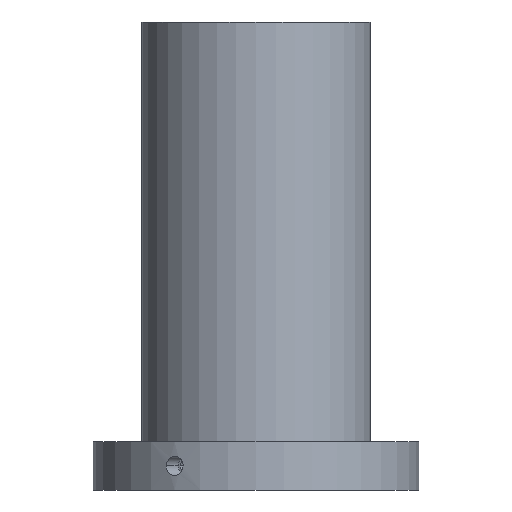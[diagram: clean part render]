
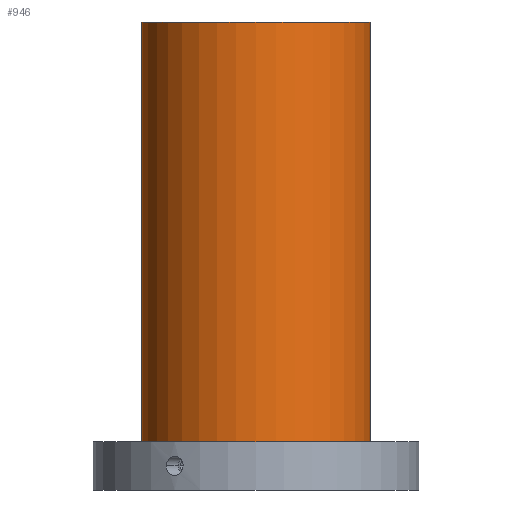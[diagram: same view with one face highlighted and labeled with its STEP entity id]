
A CAD part, front view. The second image highlights one B-rep face of the part: STEP entity #946.
In plain terms, the highlighted cylindrical face has radius 47.5 mm (diameter 95 mm), a partial arc.
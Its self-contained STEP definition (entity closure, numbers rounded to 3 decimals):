
#106=CARTESIAN_POINT('',(0.,0.,194.));
#107=DIRECTION('',(0.,0.,1.));
#108=DIRECTION('',(-1.,0.,0.));
#109=AXIS2_PLACEMENT_3D('',#106,#107,#108);
#181=CARTESIAN_POINT('',(0.,0.,20.));
#182=DIRECTION('',(0.,0.,-1.));
#183=DIRECTION('',(1.,0.,0.));
#184=AXIS2_PLACEMENT_3D('',#181,#182,#183);
#371=DIRECTION('',(0.,0.,-1.));
#372=VECTOR('',#371,174.);
#373=CARTESIAN_POINT('',(-47.5,0.,194.));
#374=LINE('',#373,#372);
#375=DIRECTION('',(0.,0.,-1.));
#376=VECTOR('',#375,174.);
#377=CARTESIAN_POINT('',(47.5,0.,194.));
#378=LINE('',#377,#376);
#411=CARTESIAN_POINT('',(-47.5,0.,20.));
#412=CARTESIAN_POINT('',(47.5,0.,20.));
#413=VERTEX_POINT('',#411);
#414=VERTEX_POINT('',#412);
#499=CARTESIAN_POINT('',(47.5,0.,194.));
#500=VERTEX_POINT('',#499);
#501=CARTESIAN_POINT('',(-47.5,0.,194.));
#502=VERTEX_POINT('',#501);
#935=CARTESIAN_POINT('',(0.,0.,174.));
#936=DIRECTION('',(0.,0.,-1.));
#937=DIRECTION('',(-1.,0.,0.));
#938=AXIS2_PLACEMENT_3D('',#935,#936,#937);
#939=CYLINDRICAL_SURFACE('',#938,47.5);
#940=ORIENTED_EDGE('',*,*,#675,.T.);
#941=ORIENTED_EDGE('',*,*,#630,.F.);
#942=ORIENTED_EDGE('',*,*,#610,.T.);
#943=ORIENTED_EDGE('',*,*,#627,.T.);
#944=EDGE_LOOP('',(#940,#941,#942,#943));
#945=FACE_OUTER_BOUND('',#944,.F.);
#946=ADVANCED_FACE('',(#945),#939,.T.);
#110=CIRCLE('',#109,47.5);
#185=CIRCLE('',#184,47.5);
#610=EDGE_CURVE('',#502,#500,#110,.T.);
#627=EDGE_CURVE('',#500,#414,#378,.T.);
#630=EDGE_CURVE('',#502,#413,#374,.T.);
#675=EDGE_CURVE('',#414,#413,#185,.T.);
